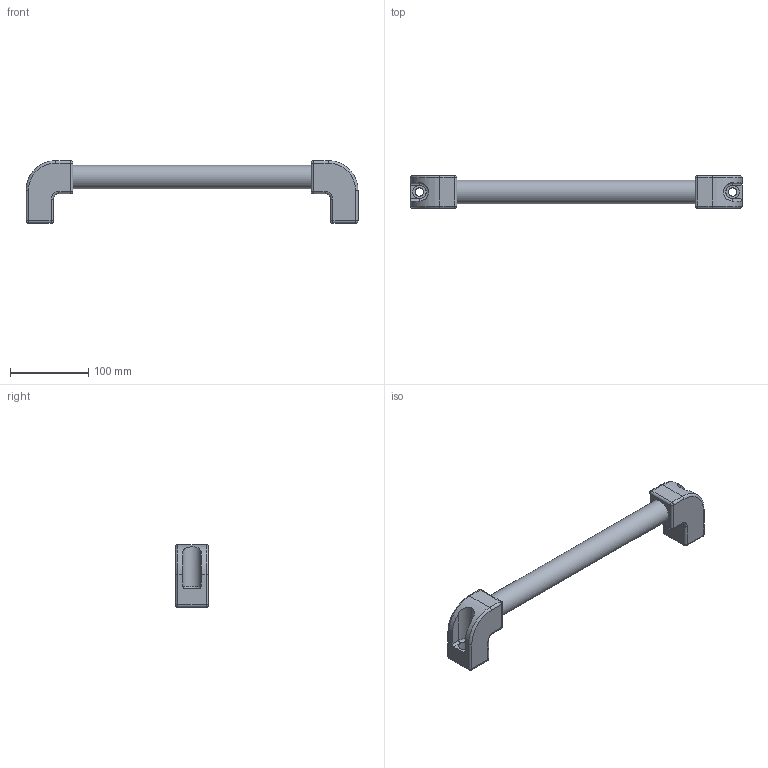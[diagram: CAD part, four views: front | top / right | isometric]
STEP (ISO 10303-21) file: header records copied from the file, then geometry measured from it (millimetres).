
FILE_DESCRIPTION( ('This file contains a STEP AP42 implementation' ,'as created by ZW3D STEP Interface translator.') ,'2;1' );
FILE_NAME( 'R30-400.stp' ,'26 817.123225', (''), ('ZWCAD Software Co.'), 'Version 1.0', 'ZW3D to STEP translator', '' );
FILE_SCHEMA(('AP242_MANAGED_MODEL_BASED_3D_ENGINEERING_MIM_LF { 1 0 10303 442 1 1 4 }'));
Length unit declared in the file: millimetre
Products named in the file (1): 0
Bounding box: 424 x 42 x 80 mm (x, y, z)
Volume: 277430.4 mm3; surface area: 104726.8 mm2
Topology: 3 solids, 3 shells, 104 faces, 216 edges, 122 vertices
Faces by surface type: cylinder 50, plane 28, sphere 16, torus 10
Full cylindrical faces by diameter (mm): 10.5 x2, 17 x2, 26 x1, 30 x3
Entity records: 2885 total; most frequent: DIRECTION 538, CARTESIAN_POINT 467, ORIENTED_EDGE 428, AXIS2_PLACEMENT_3D 219, EDGE_CURVE 214, VERTEX_POINT 120, CIRCLE 114, EDGE_LOOP 114
